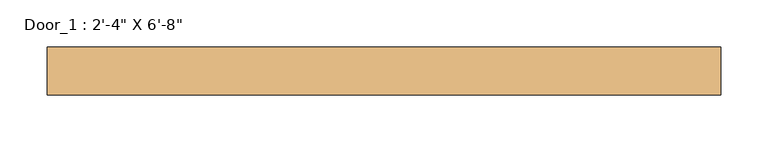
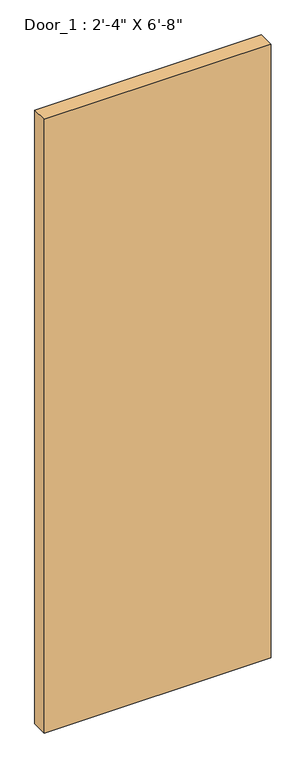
"""IFC4 building model written with IfcOpenShell, lengths in millimetres: door geometry."""

from ifc_helpers import new_model, si_unit, origin, origin_with_axes, place, context, project, spatial, polyline, outline, extrude, source, transform, mapped, element, save


def door_8a6e924b(model_context):
    return source(origin(), model_context, "Body", "SweptSolid", [
        extrude(outline(polyline([(355.6, 27.1893842), (-355.6, 27.1893842), (-355.6, 77.9893842), (355.6, 77.9893842), (355.6, 27.1893842)])), origin_with_axes(), (0.0, 0.0, 1.0), 2032.0),
    ])


if __name__ == "__main__":
    model = new_model("IFC4")
    model_context = context("Model", 3, world=origin())
    ifc_project = project(units=[si_unit("LENGTHUNIT", "METRE", prefix="MILLI")], contexts=[model_context])
    site = spatial("IfcSite", under=ifc_project)
    building = spatial("IfcBuilding", under=site)
    placement = place(None, origin())
    door_shape = door_8a6e924b(model_context)
    element("IfcDoor", 1, ObjectType="Door_1 : 2'-4\" X 6'-8\"", at=placement, inside=building, context=model_context, shape_type="MappedRepresentation", body=[
        mapped(door_shape, transform((0.0, 0.0, 0.0), x_axis=(1.0, 0.0, 0.0), y_axis=(0.0, 1.0, 0.0), z_axis=(0.0, 0.0, 1.0))),
    ])
    save(model, "model.ifc")
